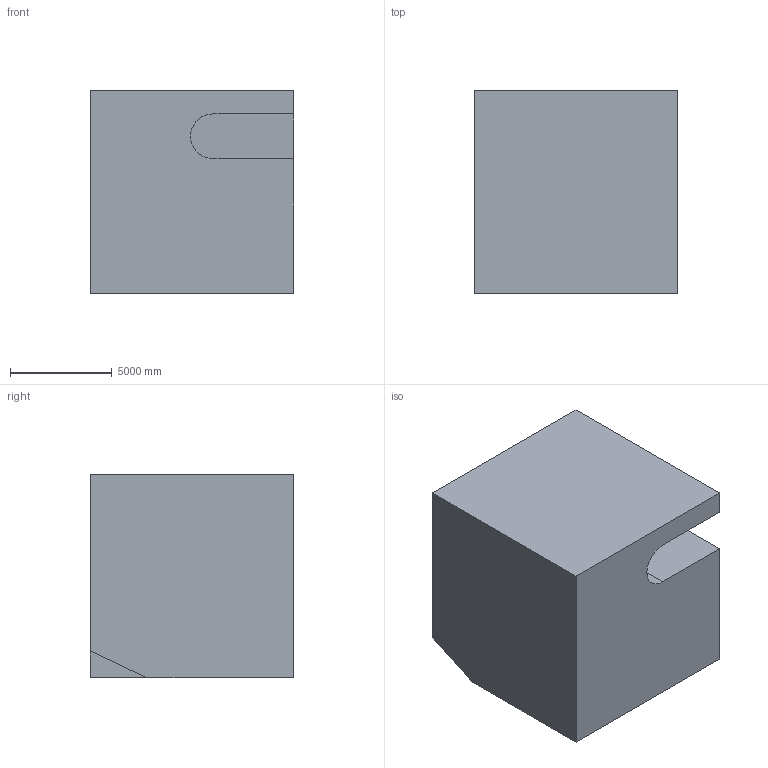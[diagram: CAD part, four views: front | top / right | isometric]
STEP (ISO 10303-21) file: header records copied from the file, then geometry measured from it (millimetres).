
FILE_DESCRIPTION (( 'STEP AP203' ), '1' );
FILE_NAME ('20.STEP', '2022-09-01T11:37:47', ( 'user' ), ( '' ), 'SwSTEP 2.0', 'SolidWorks 2021', '' );
FILE_SCHEMA (( 'CONFIG_CONTROL_DESIGN' ));
Length unit declared in the file: centimetre
Products named in the file (1): 20
Bounding box: 10000 x 10000 x 10000 mm (x, y, z)
Volume: 929378927571.3 mm3; surface area: 655283806.2 mm2
Topology: 1 solids, 1 shells, 15 faces, 36 edges, 24 vertices
Faces by surface type: plane 12, cylinder 3
Entity records: 513 total; most frequent: CARTESIAN_POINT 76, DIRECTION 74, ORIENTED_EDGE 72, EDGE_CURVE 36, VECTOR 30, LINE 30, VERTEX_POINT 24, AXIS2_PLACEMENT_3D 22
